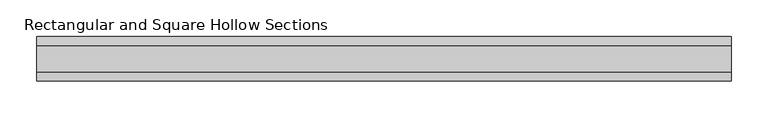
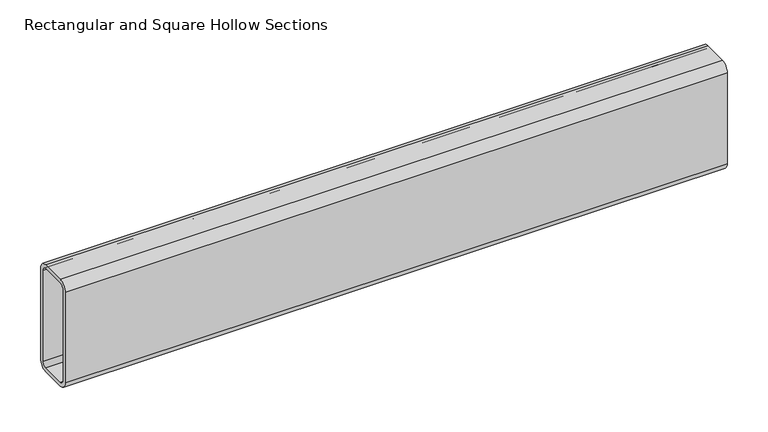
"""IFC4 building model written with IfcOpenShell, lengths in millimetres: beam geometry, Rectangular and Square Hollow Sections : TREC160x60x6."""

from ifc_helpers import new_model, si_unit, point, frame, frame_2d, origin, place, context, project, spatial, polyline, circle_curve, trimmed, segment, composite_curve, outline, extrude, source, transform, mapped, element, save


def rectangular_and_square_hollow_sections_cfd01d1c(model_context):
    return source(origin(), model_context, "Body", "SweptSolid", [
        extrude(outline(composite_curve([segment(polyline([(30.0, 68.0), (30.0, -68.0)]), True, "CONTINUOUS"), segment(trimmed(circle_curve(frame_2d((18.0, -68.0)), 12.0), [point((30.0, -68.0))], [point((18.0, -80.0))], False, "CARTESIAN"), True, "CONTINUOUS"), segment(polyline([(18.0, -80.0), (-18.0, -80.0)]), True, "CONTINUOUS"), segment(trimmed(circle_curve(frame_2d((-18.0, -68.0)), 12.0), [point((-18.0, -80.0))], [point((-30.0, -68.0))], False, "CARTESIAN"), True, "CONTINUOUS"), segment(polyline([(-30.0, -68.0), (-30.0, 68.0)]), True, "CONTINUOUS"), segment(trimmed(circle_curve(frame_2d((-18.0, 68.0)), 12.0), [point((-30.0, 68.0))], [point((-18.0, 80.0))], False, "CARTESIAN"), True, "CONTINUOUS"), segment(polyline([(-18.0, 80.0), (18.0, 80.0)]), True, "CONTINUOUS"), segment(trimmed(circle_curve(frame_2d((18.0, 68.0)), 12.0), [point((18.0, 80.0))], [point((30.0, 68.0))], False, "CARTESIAN"), True, "CONTINUOUS")], self_intersect=False), holes=[composite_curve([segment(trimmed(circle_curve(frame_2d((-18.0, 68.0)), 6.0), [point((-18.0, 74.0))], [point((-24.0, 68.0))], True, "CARTESIAN"), True, "CONTINUOUS"), segment(polyline([(-24.0, 68.0), (-24.0, -68.0)]), True, "CONTINUOUS"), segment(trimmed(circle_curve(frame_2d((-18.0, -68.0)), 6.0), [point((-24.0, -68.0))], [point((-18.0, -74.0))], True, "CARTESIAN"), True, "CONTINUOUS"), segment(polyline([(-18.0, -74.0), (18.0, -74.0)]), True, "CONTINUOUS"), segment(trimmed(circle_curve(frame_2d((18.0, -68.0)), 6.0), [point((18.0, -74.0))], [point((24.0, -68.0))], True, "CARTESIAN"), True, "CONTINUOUS"), segment(polyline([(24.0, -68.0), (24.0, 68.0)]), True, "CONTINUOUS"), segment(trimmed(circle_curve(frame_2d((18.0, 68.0)), 6.0), [point((24.0, 68.0))], [point((18.0, 74.0))], True, "CARTESIAN"), True, "CONTINUOUS"), segment(polyline([(18.0, 74.0), (-18.0, 74.0)]), True, "CONTINUOUS")], self_intersect=False)]), frame((-476.0, 0.0, 0.0), z_axis=(1.0, 0.0, 0.0), x_axis=(0.0, 1.0, 0.0)), (0.0, 0.0, 1.0), 939.0),
    ])


if __name__ == "__main__":
    model = new_model("IFC4")
    model_context = context("Model", 3, world=origin())
    ifc_project = project(units=[si_unit("LENGTHUNIT", "METRE", prefix="MILLI")], contexts=[model_context])
    site = spatial("IfcSite", under=ifc_project)
    building = spatial("IfcBuilding", under=site)
    placement = place(None, origin())
    rectangular_and_square_hollow_sections_shape = rectangular_and_square_hollow_sections_cfd01d1c(model_context)
    element("IfcBeam", 1, ObjectType="Rectangular and Square Hollow Sections : TREC160x60x6", at=placement, inside=building, context=model_context, shape_type="MappedRepresentation", body=[
        mapped(rectangular_and_square_hollow_sections_shape, transform((0.0, 0.0, 0.0), x_axis=(1.0, 0.0, 0.0), y_axis=(0.0, 1.0, 0.0), z_axis=(0.0, 0.0, 1.0))),
    ])
    save(model, "model.ifc")
